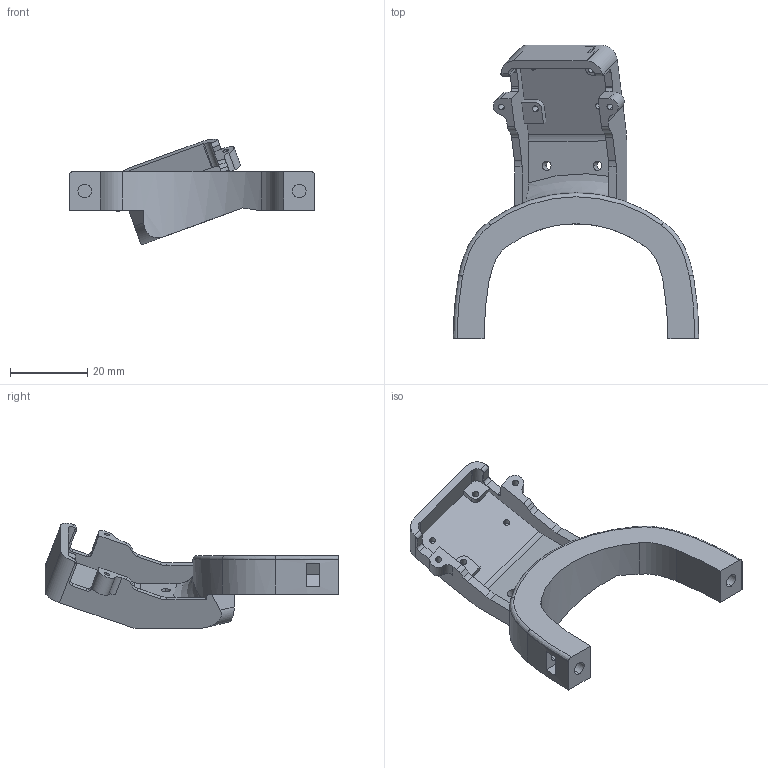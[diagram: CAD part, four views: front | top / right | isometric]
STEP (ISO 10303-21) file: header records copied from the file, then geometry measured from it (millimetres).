
FILE_DESCRIPTION (( 'STEP AP203' ), '1' );
FILE_NAME ('G1手腕相机支架-上装-左.STEP', '2025-08-21T06:32:33', ( '' ), ( '' ), 'SwSTEP 2.0', 'SolidWorks 2023', '' );
FILE_SCHEMA (( 'CONFIG_CONTROL_DESIGN' ));
Length unit declared in the file: millimetre
Products named in the file (1): G1手腕相机支架-上装-左
Bounding box: 63.73 x 76.3 x 27.43 mm (x, y, z)
Volume: 13668.4 mm3; surface area: 8564.5 mm2
Topology: 1 solids, 1 shells, 138 faces, 376 edges, 249 vertices
Faces by surface type: plane 68, cylinder 56, bspline 13, torus 1
Entity records: 5369 total; most frequent: CARTESIAN_POINT 1809, ORIENTED_EDGE 752, DIRECTION 694, EDGE_CURVE 376, VERTEX_POINT 249, AXIS2_PLACEMENT_3D 241, LINE 212, VECTOR 212
